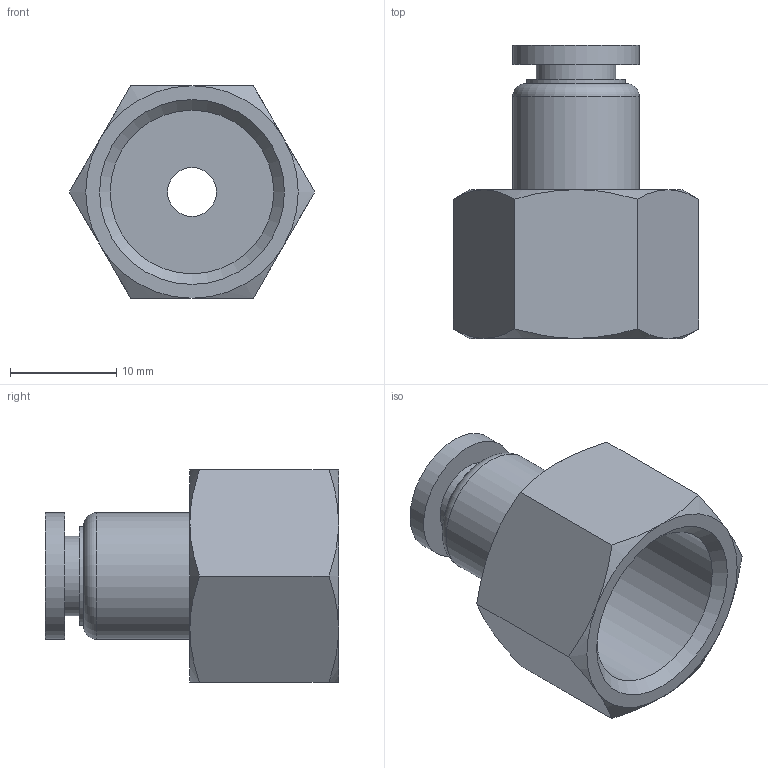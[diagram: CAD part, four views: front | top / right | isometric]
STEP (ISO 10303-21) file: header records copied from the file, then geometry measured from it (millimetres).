
FILE_DESCRIPTION(/* description */ (''),/* implementation_level */ '2;1');
FILE_NAME(/* name */ 'S:\_Tecnico\ArchivioUT\_Disegni3D ingombri\DISEGNI 3D per ingombri\RP\RP 52\RP523806.stp',/* time_stamp */ '2019-07-29T17:14:57+02:00',/* author */ ('ufficiotecnico3'),/* organization */ (''),/* preprocessor_version */ 'ST-DEVELOPER v18',/* originating_system */ 'Autodesk Inventor 2020',/* authorisation */ '');
FILE_SCHEMA (('AUTOMOTIVE_DESIGN { 1 0 10303 214 3 1 1 }'));
Length unit declared in the file: millimetre
Products named in the file (1): RP523806
Bounding box: 23.09 x 27.6 x 20 mm (x, y, z)
Volume: 3529.7 mm3; surface area: 3041.8 mm2
Topology: 1 solids, 1 shells, 35 faces, 83 edges, 56 vertices
Faces by surface type: plane 14, cone 13, cylinder 7, torus 1
Full cylindrical faces by diameter (mm): 4.6 x1, 6 x1, 7.5 x1, 9.3 x1, 11.9 x2, 15.395 x1
Entity records: 1059 total; most frequent: CARTESIAN_POINT 223, DIRECTION 176, ORIENTED_EDGE 166, EDGE_CURVE 83, AXIS2_PLACEMENT_3D 81, VERTEX_POINT 56, CIRCLE 45, EDGE_LOOP 43
